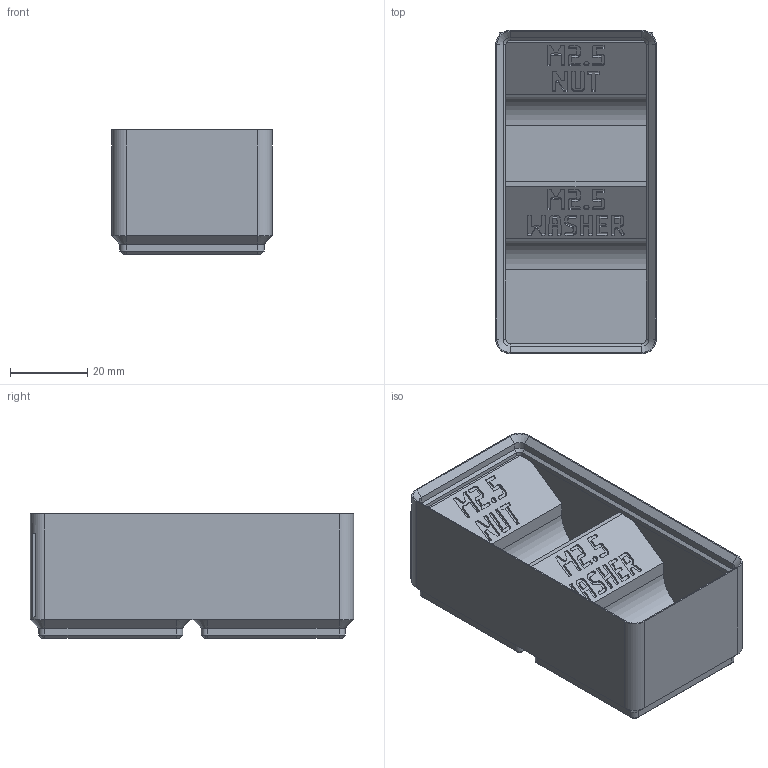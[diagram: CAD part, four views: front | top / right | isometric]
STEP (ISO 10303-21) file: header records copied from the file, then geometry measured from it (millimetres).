
FILE_DESCRIPTION(('Open CASCADE Model'),'2;1');
FILE_NAME('Open CASCADE Shape Model','2026-11-16T17:23:26',('Author'),( 'Open CASCADE'),'Open CASCADE STEP processor 8.0','build123d', 'Unknown');
FILE_SCHEMA(('AUTOMOTIVE_DESIGN { 1 0 10303 214 1 1 1 1 }'));
Products named in the file (1): COMPOUND
Bounding box: 41.5 x 83.5 x 32.1 mm (x, y, z)
Volume: 47203.3 mm3; surface area: 20764.7 mm2
Topology: 1 solids, 1 shells, 1742 faces, 5086 edges, 3370 vertices
Faces by surface type: plane 1690, cone 28, cylinder 24
Entity records: 122334 total; most frequent: CARTESIAN_POINT 20761, DIRECTION 18532, LINE 14862, VECTOR 14862, ORIENTED_EDGE 10172, PCURVE 10172, DEFINITIONAL_REPRESENTATION 10172, EDGE_CURVE 5086
